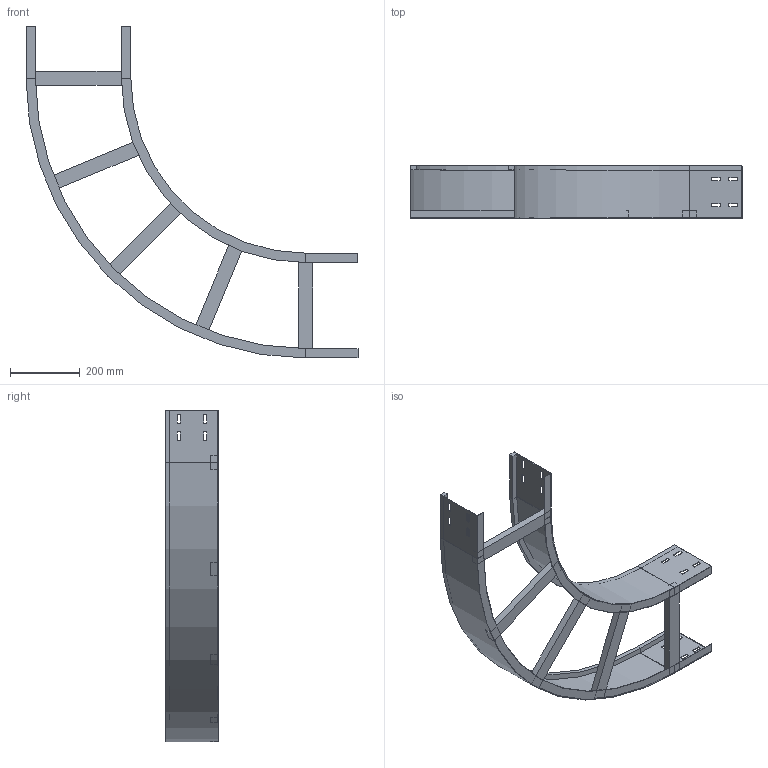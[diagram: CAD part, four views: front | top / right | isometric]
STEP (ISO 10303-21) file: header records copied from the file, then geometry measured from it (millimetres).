
FILE_DESCRIPTION (( 'STEP AP214' ), '1' );
FILE_NAME ('10J5F300.step', '2025-02-21T16:25:10', ( '' ), ( '' ), 'SwSTEP 2.0', 'SolidWorks 2023', '' );
FILE_SCHEMA (( 'AUTOMOTIVE_DESIGN' ));
Length unit declared in the file: millimetre
Products named in the file (4): 10J5F300; LONGH.ESTERNO 90°_H150_R500+300; LONGH.INTERNO 90°_H150_R500; TRAVERSINO_300
Assembly tree (7 placements, depth 2):
  10J5F300
    LONGH.INTERNO 90°_H150_R500
    LONGH.ESTERNO 90°_H150_R500+300
    TRAVERSINO_300  x5
Bounding box: 950 x 150 x 950 mm (x, y, z)
Volume: 2623583.1 mm3; surface area: 1204149.6 mm2
Topology: 7 solids, 7 shells, 146 faces, 364 edges, 232 vertices
Faces by surface type: plane 138, cylinder 8
Entity records: 3837 total; most frequent: CARTESIAN_POINT 648, ORIENTED_EDGE 632, DIRECTION 596, EDGE_CURVE 316, LINE 300, VECTOR 300, VERTEX_POINT 200, EDGE_LOOP 154
